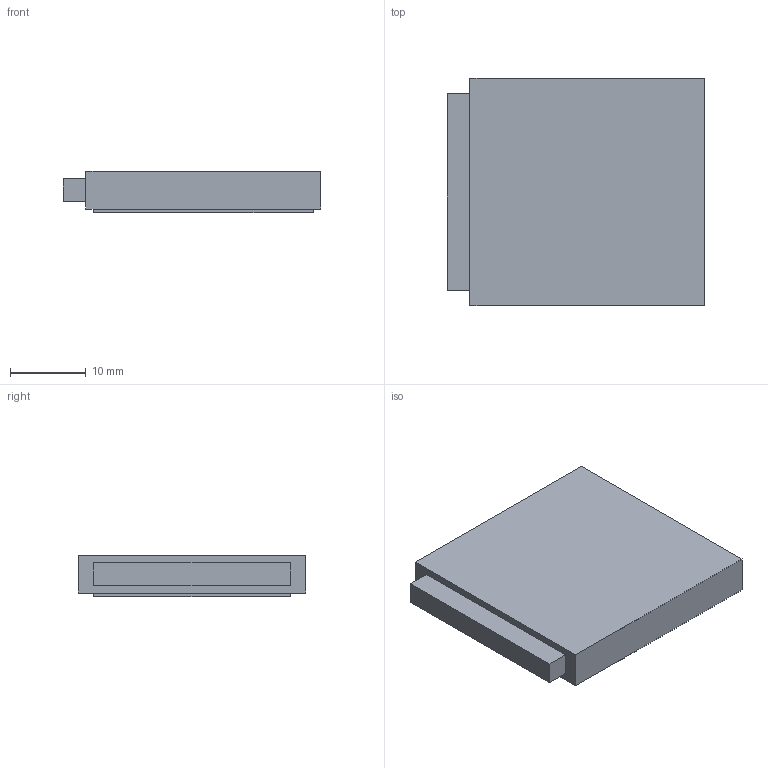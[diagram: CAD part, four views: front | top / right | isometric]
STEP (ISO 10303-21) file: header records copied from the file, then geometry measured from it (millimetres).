
FILE_DESCRIPTION(('tredder 3D model'),'2;1');
FILE_NAME('lipo_503035.step','2026-01-01T00:00:00',(''),(''),'tredder step_writer','tredder','');
FILE_SCHEMA(('AUTOMOTIVE_DESIGN { 1 0 10303 214 1 1 1 1 }'));
Length unit declared in the file: millimetre
Products named in the file (1): lipo_503035
Bounding box: 34 x 30 x 5.5 mm (x, y, z)
Volume: 5261 mm3; surface area: 4363 mm2
Topology: 3 solids, 3 shells, 18 faces, 36 edges, 24 vertices
Faces by surface type: plane 18
Entity records: 490 total; most frequent: CARTESIAN_POINT 79, DIRECTION 74, ORIENTED_EDGE 72, VECTOR 36, LINE 36, EDGE_CURVE 36, VERTEX_POINT 24, AXIS2_PLACEMENT_3D 19
